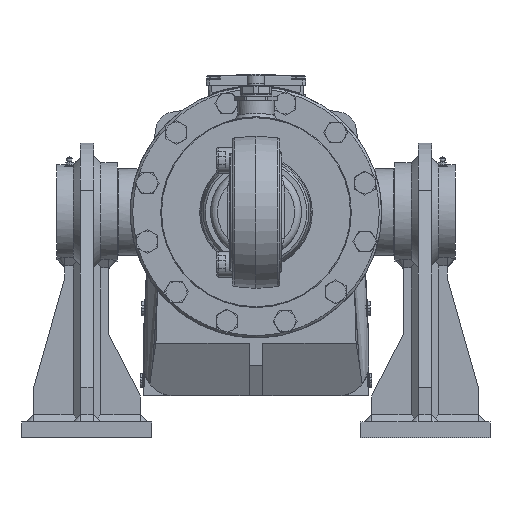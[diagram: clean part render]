
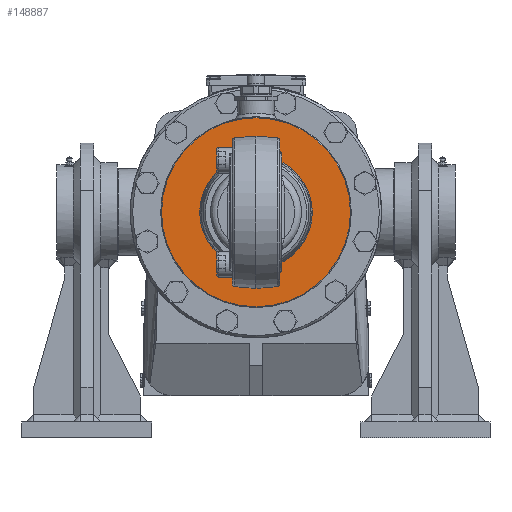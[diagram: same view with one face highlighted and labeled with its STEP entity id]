
A CAD part, front view. The second image highlights one B-rep face of the part: STEP entity #148887.
In plain terms, the highlighted planar face has unit normal (0, -1, 0).
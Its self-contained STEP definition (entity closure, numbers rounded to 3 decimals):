
#24168=PLANE('',#155337);
#30283=ORIENTED_EDGE('',*,*,#65912,.T.);
#30284=ORIENTED_EDGE('',*,*,#65913,.T.);
#65912=EDGE_CURVE('',#83848,#83848,#95481,.T.);
#65913=EDGE_CURVE('',#83849,#83849,#95482,.T.);
#83848=VERTEX_POINT('',#204602);
#83849=VERTEX_POINT('',#204604);
#95481=CIRCLE('',#155338,65.);
#95482=CIRCLE('',#155339,109.);
#101602=EDGE_LOOP('',(#30283));
#101603=EDGE_LOOP('',(#30284));
#108922=FACE_BOUND('',#101602,.T.);
#108923=FACE_BOUND('',#101603,.T.);
#148887=ADVANCED_FACE('',(#108922,#108923),#24168,.T.);
#155337=AXIS2_PLACEMENT_3D('',#204600,#168454,#168455);
#155338=AXIS2_PLACEMENT_3D('',#204601,#168456,#168457);
#155339=AXIS2_PLACEMENT_3D('',#204603,#168458,#168459);
#168454=DIRECTION('',(0.,-1.,0.));
#168455=DIRECTION('',(1.,0.,0.));
#168456=DIRECTION('',(0.,1.,0.));
#168457=DIRECTION('',(1.,0.,0.));
#168458=DIRECTION('',(0.,-1.,0.));
#168459=DIRECTION('',(1.,0.,0.));
#204600=CARTESIAN_POINT('',(0.,-1088.,0.));
#204601=CARTESIAN_POINT('',(0.,-1088.,0.));
#204602=CARTESIAN_POINT('',(65.,-1088.,0.));
#204603=CARTESIAN_POINT('',(0.,-1088.,0.));
#204604=CARTESIAN_POINT('',(109.,-1088.,0.));
